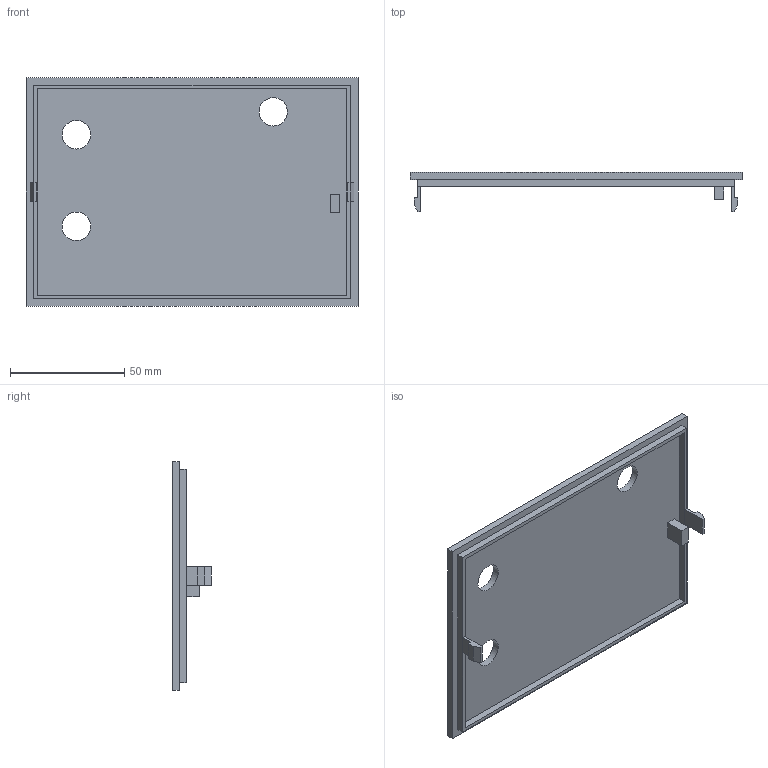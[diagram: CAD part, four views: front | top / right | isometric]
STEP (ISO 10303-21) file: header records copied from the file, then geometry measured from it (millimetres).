
FILE_DESCRIPTION(('Open CASCADE Model'),'2;1');
FILE_NAME('Open CASCADE Shape Model','2026-11-04T18:24:46',('Author'),( 'Open CASCADE'),'Open CASCADE STEP processor 7.8','Open CASCADE 7.8' ,'Unknown');
FILE_SCHEMA(('AUTOMOTIVE_DESIGN { 1 0 10303 214 1 1 1 1 }'));
Length unit declared in the file: millimetre
Products named in the file (1): Open CASCADE STEP translator 7.8 3
Bounding box: 145 x 17 x 100 mm (x, y, z)
Volume: 45197.2 mm3; surface area: 33505.6 mm2
Topology: 1 solids, 1 shells, 40 faces, 99 edges, 66 vertices
Faces by surface type: plane 37, cylinder 3
Full cylindrical faces by diameter (mm): 12.4 x1, 12.5 x2
Entity records: 2448 total; most frequent: CARTESIAN_POINT 434, DIRECTION 355, LINE 255, VECTOR 255, ORIENTED_EDGE 198, PCURVE 198, DEFINITIONAL_REPRESENTATION 198, EDGE_CURVE 99
